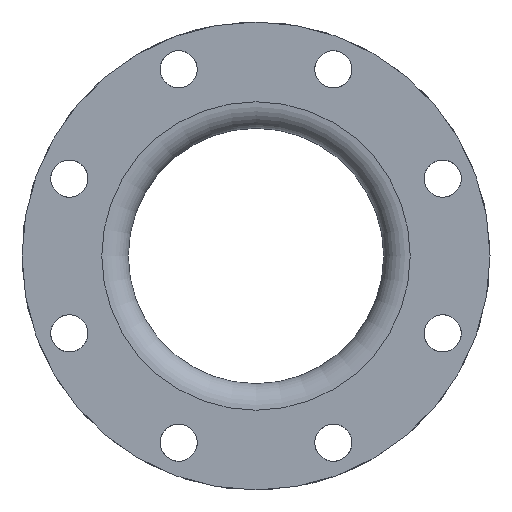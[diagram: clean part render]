
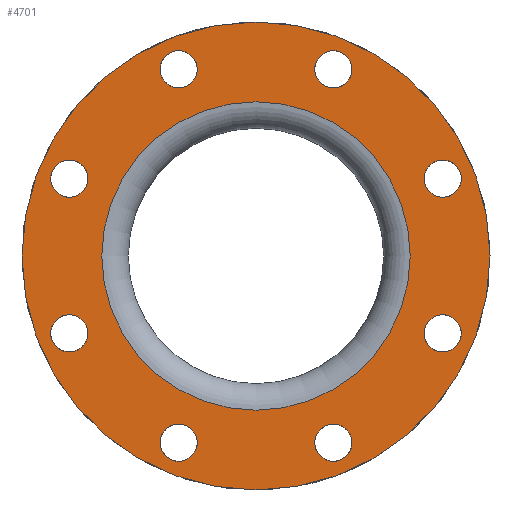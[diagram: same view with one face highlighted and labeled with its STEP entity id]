
A CAD part, front view. The second image highlights one B-rep face of the part: STEP entity #4701.
In plain terms, the highlighted planar face has unit normal (0, -1, 0).
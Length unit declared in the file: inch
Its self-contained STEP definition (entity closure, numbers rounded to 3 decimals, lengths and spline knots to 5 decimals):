
#110=FACE_BOUND('',#915,.T.);
#111=FACE_BOUND('',#916,.T.);
#112=FACE_BOUND('',#917,.T.);
#113=FACE_BOUND('',#918,.T.);
#114=FACE_BOUND('',#919,.T.);
#115=FACE_BOUND('',#920,.T.);
#116=FACE_BOUND('',#921,.T.);
#117=FACE_BOUND('',#922,.T.);
#118=FACE_BOUND('',#923,.T.);
#574=FACE_OUTER_BOUND('',#914,.T.);
#914=EDGE_LOOP('',(#4092));
#915=EDGE_LOOP('',(#4093));
#916=EDGE_LOOP('',(#4094));
#917=EDGE_LOOP('',(#4095));
#918=EDGE_LOOP('',(#4096));
#919=EDGE_LOOP('',(#4097));
#920=EDGE_LOOP('',(#4098));
#921=EDGE_LOOP('',(#4099));
#922=EDGE_LOOP('',(#4100));
#923=EDGE_LOOP('',(#4101));
#1795=CIRCLE('',#5315,0.4375);
#1797=CIRCLE('',#5318,0.4375);
#1799=CIRCLE('',#5321,0.4375);
#1801=CIRCLE('',#5324,0.4375);
#1803=CIRCLE('',#5327,0.4375);
#1805=CIRCLE('',#5330,0.4375);
#1807=CIRCLE('',#5333,0.4375);
#1809=CIRCLE('',#5336,0.4375);
#1812=CIRCLE('',#5341,3.625);
#1813=CIRCLE('',#5343,5.5);
#2239=VERTEX_POINT('',#8133);
#2241=VERTEX_POINT('',#8138);
#2243=VERTEX_POINT('',#8143);
#2245=VERTEX_POINT('',#8148);
#2247=VERTEX_POINT('',#8153);
#2249=VERTEX_POINT('',#8158);
#2251=VERTEX_POINT('',#8163);
#2253=VERTEX_POINT('',#8168);
#2256=VERTEX_POINT('',#8176);
#2257=VERTEX_POINT('',#8179);
#2865=EDGE_CURVE('',#2239,#2239,#1795,.T.);
#2867=EDGE_CURVE('',#2241,#2241,#1797,.T.);
#2869=EDGE_CURVE('',#2243,#2243,#1799,.T.);
#2871=EDGE_CURVE('',#2245,#2245,#1801,.T.);
#2873=EDGE_CURVE('',#2247,#2247,#1803,.T.);
#2875=EDGE_CURVE('',#2249,#2249,#1805,.T.);
#2877=EDGE_CURVE('',#2251,#2251,#1807,.T.);
#2879=EDGE_CURVE('',#2253,#2253,#1809,.T.);
#2882=EDGE_CURVE('',#2256,#2256,#1812,.T.);
#2883=EDGE_CURVE('',#2257,#2257,#1813,.T.);
#4092=ORIENTED_EDGE('',*,*,#2883,.F.);
#4093=ORIENTED_EDGE('',*,*,#2882,.T.);
#4094=ORIENTED_EDGE('',*,*,#2865,.T.);
#4095=ORIENTED_EDGE('',*,*,#2867,.T.);
#4096=ORIENTED_EDGE('',*,*,#2869,.T.);
#4097=ORIENTED_EDGE('',*,*,#2871,.T.);
#4098=ORIENTED_EDGE('',*,*,#2873,.T.);
#4099=ORIENTED_EDGE('',*,*,#2875,.T.);
#4100=ORIENTED_EDGE('',*,*,#2877,.T.);
#4101=ORIENTED_EDGE('',*,*,#2879,.T.);
#4204=PLANE('',#5342);
#4701=ADVANCED_FACE('',(#574,#110,#111,#112,#113,#114,#115,#116,#117,#118),
#4204,.T.);
#5315=AXIS2_PLACEMENT_3D('',#8134,#6793,#6794);
#5318=AXIS2_PLACEMENT_3D('',#8139,#6799,#6800);
#5321=AXIS2_PLACEMENT_3D('',#8144,#6805,#6806);
#5324=AXIS2_PLACEMENT_3D('',#8149,#6811,#6812);
#5327=AXIS2_PLACEMENT_3D('',#8154,#6817,#6818);
#5330=AXIS2_PLACEMENT_3D('',#8159,#6823,#6824);
#5333=AXIS2_PLACEMENT_3D('',#8164,#6829,#6830);
#5336=AXIS2_PLACEMENT_3D('',#8169,#6835,#6836);
#5341=AXIS2_PLACEMENT_3D('',#8177,#6845,#6846);
#5342=AXIS2_PLACEMENT_3D('',#8178,#6847,#6848);
#5343=AXIS2_PLACEMENT_3D('',#8180,#6849,#6850);
#6793=DIRECTION('center_axis',(0.,1.,0.));
#6794=DIRECTION('ref_axis',(0.707,0.,-0.707));
#6799=DIRECTION('center_axis',(0.,1.,0.));
#6800=DIRECTION('ref_axis',(1.,0.,0.));
#6805=DIRECTION('center_axis',(0.,1.,0.));
#6806=DIRECTION('ref_axis',(0.707,0.,0.707));
#6811=DIRECTION('center_axis',(0.,1.,0.));
#6812=DIRECTION('ref_axis',(0.,0.,
1.));
#6817=DIRECTION('center_axis',(0.,1.,0.));
#6818=DIRECTION('ref_axis',(-0.707,0.,0.707));
#6823=DIRECTION('center_axis',(0.,1.,0.));
#6824=DIRECTION('ref_axis',(-1.,0.,0.));
#6829=DIRECTION('center_axis',(0.,1.,0.));
#6830=DIRECTION('ref_axis',(-0.707,0.,-0.707));
#6835=DIRECTION('center_axis',(0.,1.,0.));
#6836=DIRECTION('ref_axis',(0.,0.,-1.));
#6845=DIRECTION('center_axis',(0.,1.,0.));
#6846=DIRECTION('ref_axis',(-1.,0.,0.));
#6847=DIRECTION('center_axis',(0.,-1.,0.));
#6848=DIRECTION('ref_axis',(0.,0.,1.));
#6849=DIRECTION('center_axis',(0.,1.,0.));
#6850=DIRECTION('ref_axis',(-1.,0.,0.));
#8133=CARTESIAN_POINT('',(-2.12711,-9.,-4.07907));
#8134=CARTESIAN_POINT('Origin',(-1.81775,-9.,-4.38843));
#8138=CARTESIAN_POINT('',(1.38025,-9.,-4.38843));
#8139=CARTESIAN_POINT('Origin',(1.81775,-9.,-4.38843));
#8143=CARTESIAN_POINT('',(4.07907,-9.,-2.12711));
#8144=CARTESIAN_POINT('Origin',(4.38843,-9.,-1.81775));
#8148=CARTESIAN_POINT('',(4.38843,-9.,1.38025));
#8149=CARTESIAN_POINT('Origin',(4.38843,-9.,1.81775));
#8153=CARTESIAN_POINT('',(2.12711,-9.,4.07907));
#8154=CARTESIAN_POINT('Origin',(1.81775,-9.,4.38843));
#8158=CARTESIAN_POINT('',(-1.38025,-9.,4.38843));
#8159=CARTESIAN_POINT('Origin',(-1.81775,-9.,4.38843));
#8163=CARTESIAN_POINT('',(-4.07907,-9.,2.12711));
#8164=CARTESIAN_POINT('Origin',(-4.38843,-9.,1.81775));
#8168=CARTESIAN_POINT('',(-4.38843,-9.,-1.38025));
#8169=CARTESIAN_POINT('Origin',(-4.38843,-9.,-1.81775));
#8176=CARTESIAN_POINT('',(-3.625,-9.,0.));
#8177=CARTESIAN_POINT('Origin',(0.,-9.,
0.));
#8178=CARTESIAN_POINT('Origin',(-4.5625,-9.,0.));
#8179=CARTESIAN_POINT('',(-5.5,-9.,0.));
#8180=CARTESIAN_POINT('Origin',(0.,-9.,
0.));
